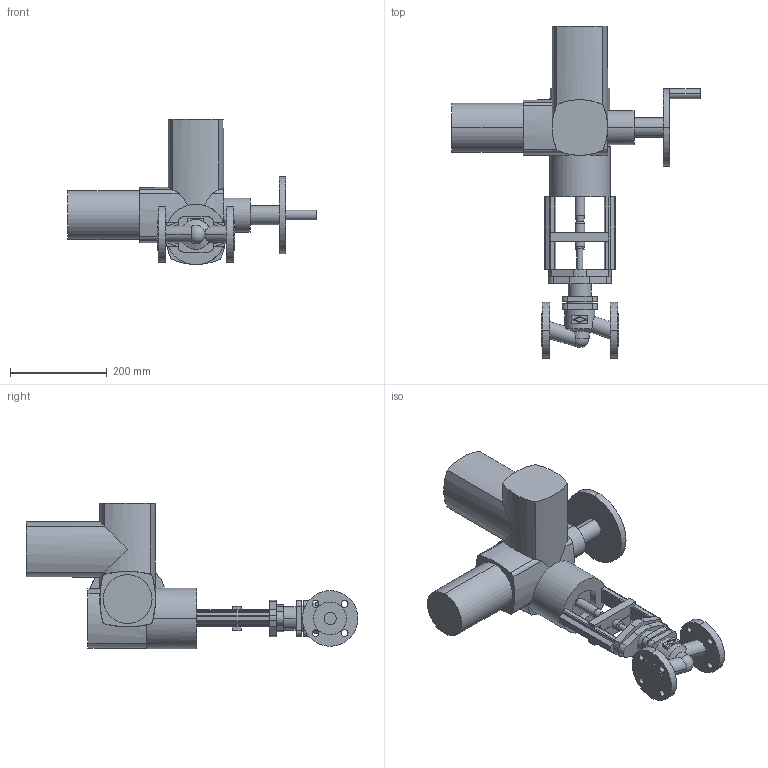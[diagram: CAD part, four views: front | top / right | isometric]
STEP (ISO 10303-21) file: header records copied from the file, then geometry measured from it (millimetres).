
FILE_DESCRIPTION( ( '' ), '1' );
FILE_NAME( 'F:/DE-SHS/TB/OR/04-Sonstiges/daten/files_3d/440-Auma/c000006187.stp', '2016-05-03T05:58:45', ( '' ), ( '' ), ' ', ' ', ' ' );
FILE_SCHEMA( ( 'CONFIG_CONTROL_DESIGN' ) );
Length unit declared in the file: millimetre
Products named in the file (2): 1; 2
Bounding box: 514 x 686.5 x 300.39 mm (x, y, z)
Volume: 10516458.2 mm3; surface area: 585579.2 mm2
Topology: 2 solids, 2 shells, 257 faces, 676 edges, 436 vertices
Faces by surface type: cylinder 125, plane 125, cone 6, sphere 1
Entity records: 8816 total; most frequent: CARTESIAN_POINT 2195, DIRECTION 1398, ORIENTED_EDGE 1348, EDGE_CURVE 674, AXIS2_PLACEMENT_3D 513, VERTEX_POINT 436, LINE 372, VECTOR 372
